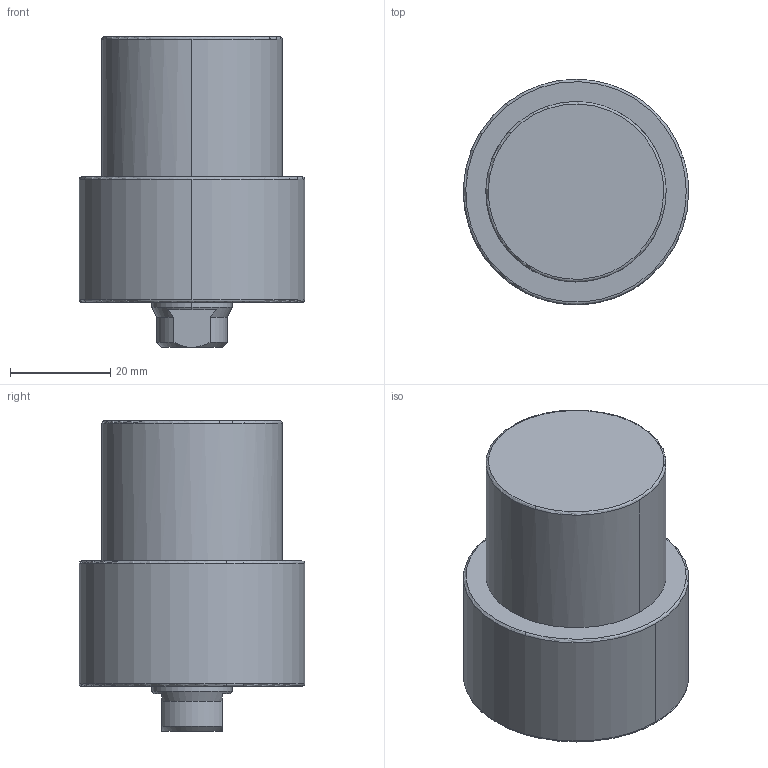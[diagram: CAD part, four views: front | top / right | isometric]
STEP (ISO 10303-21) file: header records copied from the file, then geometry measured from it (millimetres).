
FILE_DESCRIPTION((' '),'2;1');
FILE_NAME( 'TLLU-036GA-020.STEP.stp', '2025-10-24T16:37:03', (' '), ('--- Datakit www.datakit.com---'), ' Datakit CrossCadWare V2024.1 Dec 21 2023', 'Mastercam 2025', ' ');
FILE_SCHEMA(('AUTOMOTIVE_DESIGN { 1 0 10303 214 1 1 1 1 }'));
Length unit declared in the file: millimetre
Products named in the file (1): TLLU-036GA-020
Bounding box: 44.99 x 45 x 62 mm (x, y, z)
Volume: 68667.2 mm3; surface area: 10998.5 mm2
Topology: 1 solids, 1 shells, 62 faces, 172 edges, 111 vertices
Faces by surface type: cone 24, cylinder 22, plane 10, torus 6
Entity records: 2034 total; most frequent: DIRECTION 386, CARTESIAN_POINT 380, ORIENTED_EDGE 324, AXIS2_PLACEMENT_3D 169, EDGE_CURVE 162, VERTEX_POINT 111, CIRCLE 106, EDGE_LOOP 71
